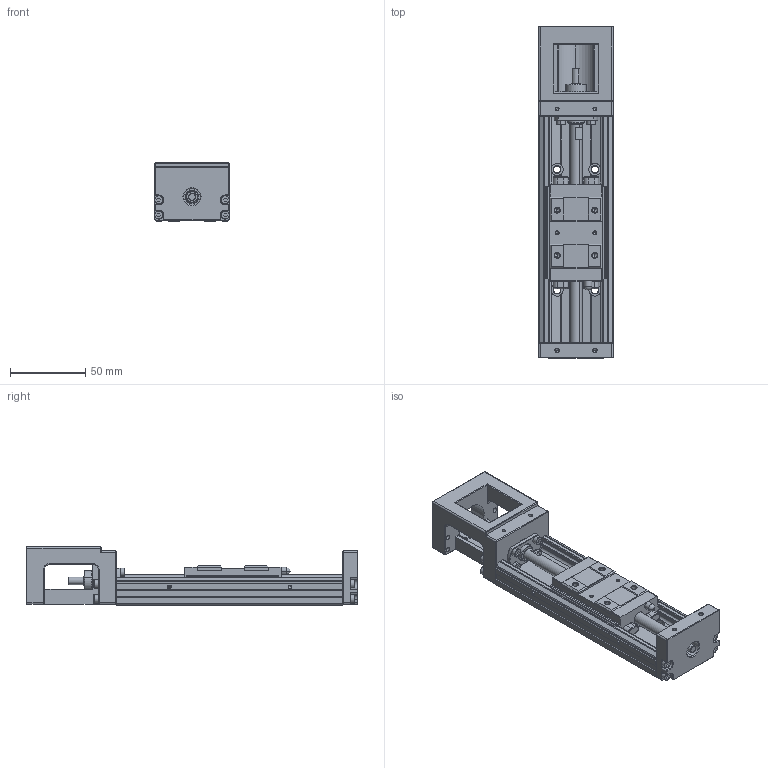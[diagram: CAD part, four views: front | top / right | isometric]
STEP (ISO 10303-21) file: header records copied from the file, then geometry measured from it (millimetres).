
FILE_DESCRIPTION (( 'STEP AP214' ), '1' );
FILE_NAME ('KS50-150A1-F0.STEP', '2020-09-07T01:04:32', ( '' ), ( '' ), 'SwSTEP 2.0', 'SolidWorks 2017', '' );
FILE_SCHEMA (( 'AUTOMOTIVE_DESIGN' ));
Length unit declared in the file: millimetre
Products named in the file (10): 錨璃3; KS50盓傅釱; KS50-150A1-F0; 錨璃2; 錨璃1; KS50嘐隅釱; 佪裝150; KS50菁釱150; KS50M3囀鞠褒; KS50佪裝蹟譫
Assembly tree (20 placements, depth 2):
  KS50-150A1-F0
    KS50菁釱150
    KS50嘐隅釱
    KS50盓傅釱
    KS50佪裝蹟譫
    KS50M3囀鞠褒  x12
    佪裝150
    錨璃2
    錨璃1
    錨璃3
Bounding box: 50 x 220 x 38.5 mm (x, y, z)
Volume: 182712 mm3; surface area: 70575.5 mm2
Topology: 22 solids, 24 shells, 977 faces, 2330 edges, 1404 vertices
Faces by surface type: plane 352, cylinder 312, cone 236, torus 75, sphere 2
Entity records: 27897 total; most frequent: DIRECTION 4054, CARTESIAN_POINT 3966, ORIENTED_EDGE 3624, EDGE_CURVE 1812, AXIS2_PLACEMENT_3D 1516, VERTEX_POINT 1116, LINE 1022, VECTOR 1022
